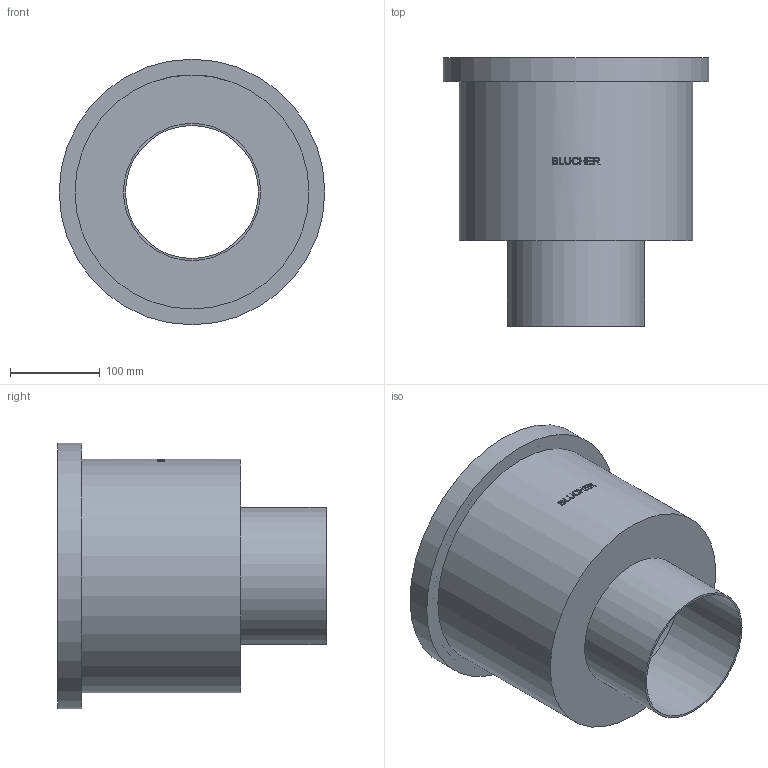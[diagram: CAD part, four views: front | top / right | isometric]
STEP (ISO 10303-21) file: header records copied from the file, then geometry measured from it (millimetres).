
FILE_DESCRIPTION((''),'2;1');
FILE_NAME('C:\Drawings\3D_CAD_Models\Blucher\BFD_Floor Drains_Complete_091119\BFD-400\WebsiteFiles\3D\STEP\BFD-446.stp','2009-11-30T08:25:21',('hofmansp'),(''),'Autodesk Inventor 2010','Autodesk Inventor 2010','');
FILE_SCHEMA(('AUTOMOTIVE_DESIGN { 1 0 10303 214 1 1 1 1 }'));
Length unit declared in the file: inch
Products named in the file (1): BFD-446
Bounding box: 295 x 298 x 295 mm (x, y, z)
Volume: 693471.1 mm3; surface area: 524908.6 mm2
Topology: 1 solids, 1 shells, 110 faces, 282 edges, 188 vertices
Faces by surface type: plane 60, bspline 34, cylinder 16
Full cylindrical faces by diameter (mm): 147.8 x1, 152.4 x1, 256.25 x1, 260 x1, 274.25 x1, 295 x1
Entity records: 14117 total; most frequent: CARTESIAN_POINT 11705, ORIENTED_EDGE 552, DIRECTION 364, EDGE_CURVE 276, VERTEX_POINT 188, EDGE_LOOP 132, AXIS2_PLACEMENT_3D 124, VECTOR 116
